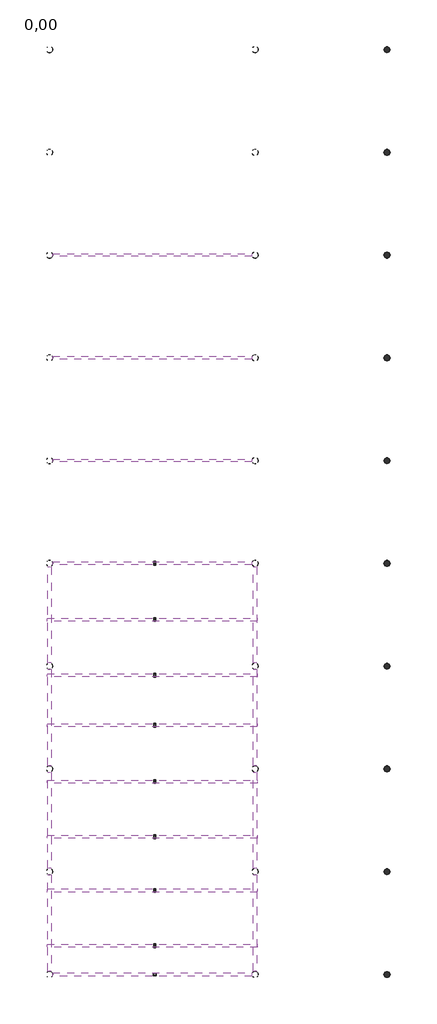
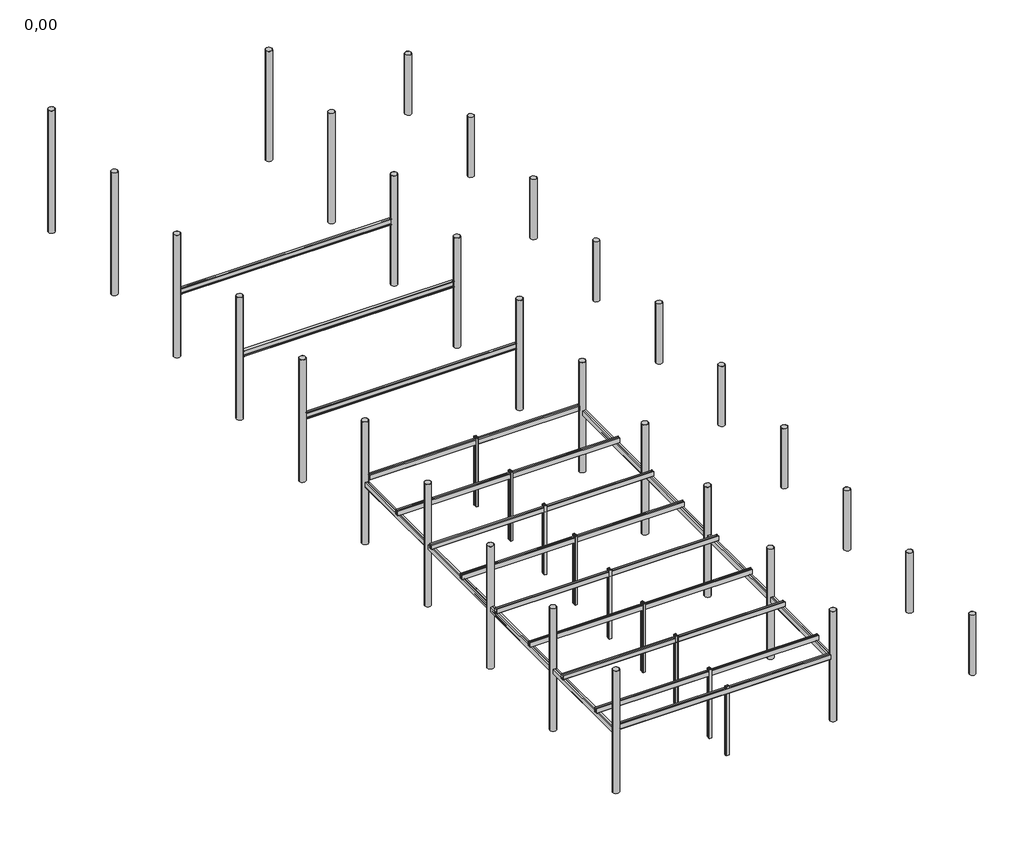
# One storey: 55 columns, 20 beams.
"""IFC4 building model written with IfcOpenShell, lengths in millimetres."""

from ifc_helpers import new_model, si_unit, origin, place, context, project, spatial, transform, mapped, element, save
from components import beam_2_c_260_021a14dd, beam_2c_270e_83d6d2ef, beam_2c_270e_b8db1d55, i330pe_6d48d478, c120_7a4876d0, c120_c8b7eb78, c180_2d3c2f65, r355_6x10_451059c9, r355_6x10_30b81005, r355_6x10_7112e704

model = new_model("IFC4")

# Units and contexts
model_context = context("Model", 3, world=origin())
ifc_project = project(units=[si_unit("LENGTHUNIT", "METRE", prefix="MILLI")], contexts=[model_context])

# Site, building, storey
site = spatial("IfcSite", under=ifc_project)
building = spatial("IfcBuilding", under=site)
storey = spatial("IfcBuildingStorey", under=building, Name="0,00", Elevation=0.0)

# Beams
placement = place(None, origin())
beam_2_c_260_shape = beam_2_c_260_021a14dd(model_context)
element("IfcBeam", 1, ObjectType="RPLN C - Ceowniki normalne_beamx2 : 2 C 260", at=placement, inside=storey, context=model_context, shape_type="MappedRepresentation", body=[
    mapped(beam_2_c_260_shape, transform((-2097.0111104, -35232.4816585, 3770.0), x_axis=(1.0, 0.0, 0.0), y_axis=(0.0, 1.0, 0.0), z_axis=(0.0, 0.0, 1.0))),
])
element("IfcBeam", 2, ObjectType="RPLN C - Ceowniki normalne_beamx2 : 2C 260", at=placement, inside=storey, context=model_context, shape_type="MappedRepresentation", body=[
    mapped(beam_2_c_260_shape, transform((-2097.0111104, -32012.4816585, 3770.0), x_axis=(1.0, 0.0, 0.0), y_axis=(0.0, 1.0, 0.0), z_axis=(0.0, 0.0, 1.0))),
])
element("IfcBeam", 3, ObjectType="RPLN C - Ceowniki normalne_beamx2 : 2C 260", at=placement, inside=storey, context=model_context, shape_type="MappedRepresentation", body=[
    mapped(beam_2_c_260_shape, transform((-2097.0111104, -28872.4816585, 3770.0), x_axis=(1.0, 0.0, 0.0), y_axis=(0.0, 1.0, 0.0), z_axis=(0.0, 0.0, 1.0))),
])
element("IfcBeam", 4, ObjectType="RPLN C - Ceowniki normalne_beamx2 : 2C 260", at=placement, inside=storey, context=model_context, shape_type="MappedRepresentation", body=[
    mapped(beam_2_c_260_shape, transform((-2097.0111104, -25652.4816585, 3770.0), x_axis=(1.0, 0.0, 0.0), y_axis=(0.0, 1.0, 0.0), z_axis=(0.0, 0.0, 1.0))),
])
element("IfcBeam", 5, ObjectType="RPLN C - Ceowniki normalne_beamx2 : 2C 260", at=placement, inside=storey, context=model_context, shape_type="MappedRepresentation", body=[
    mapped(beam_2_c_260_shape, transform((-2097.0111104, -22362.4816585, 3770.0), x_axis=(1.0, 0.0, 0.0), y_axis=(0.0, 1.0, 0.0), z_axis=(0.0, 0.0, 1.0))),
])
element("IfcBeam", 6, ObjectType="RPLN C - Ceowniki normalne_beamx2 : 2C 260", at=placement, inside=storey, context=model_context, shape_type="MappedRepresentation", body=[
    mapped(beam_2_c_260_shape, transform((-2097.0111104, -19442.4816585, 3770.0), x_axis=(1.0, 0.0, 0.0), y_axis=(0.0, 1.0, 0.0), z_axis=(0.0, 0.0, 1.0))),
])
element("IfcBeam", 7, ObjectType="RPLN C - Ceowniki normalne_beamx2 : 2C 260", at=placement, inside=storey, context=model_context, shape_type="MappedRepresentation", body=[
    mapped(beam_2_c_260_shape, transform((-2097.0111104, -16192.4816585, 3770.0), x_axis=(1.0, 0.0, 0.0), y_axis=(0.0, 1.0, 0.0), z_axis=(0.0, 0.0, 1.0))),
])
beam_2c_270e_shape = beam_2c_270e_83d6d2ef(model_context)
element("IfcBeam", 8, ObjectType="RPLN C - Ceowniki ekonomiczne_beamx2 : 2C 270E", at=placement, inside=storey, context=model_context, shape_type="MappedRepresentation", body=[
    mapped(beam_2c_270e_shape, transform((-8097.0111104, -33912.4816585, 3505.0), x_axis=(0.0, 1.0, 0.0), y_axis=(-1.0, 0.0, 0.0), z_axis=(0.0, 0.0, 1.0))),
])
element("IfcBeam", 9, ObjectType="RPLN C - Ceowniki ekonomiczne_beamx2 : 2C 270E", at=placement, inside=storey, context=model_context, shape_type="MappedRepresentation", body=[
    mapped(beam_2c_270e_shape, transform((-8097.0111104, -27912.4816585, 3505.0), x_axis=(0.0, 1.0, 0.0), y_axis=(-1.0, 0.0, 0.0), z_axis=(0.0, 0.0, 1.0))),
])
element("IfcBeam", 10, ObjectType="RPLN C - Ceowniki ekonomiczne_beamx2 : 2C 270E", at=placement, inside=storey, context=model_context, shape_type="MappedRepresentation", body=[
    mapped(beam_2c_270e_shape, transform((-8097.0111104, -21912.4816585, 3505.0), x_axis=(0.0, 1.0, 0.0), y_axis=(-1.0, 0.0, 0.0), z_axis=(0.0, 0.0, 1.0))),
])
element("IfcBeam", 11, ObjectType="RPLN C - Ceowniki ekonomiczne_beamx2 : 2C 270E", at=placement, inside=storey, context=model_context, shape_type="MappedRepresentation", body=[
    mapped(beam_2c_270e_shape, transform((-8097.0111104, -15912.4816585, 3505.0), x_axis=(0.0, 1.0, 0.0), y_axis=(-1.0, 0.0, 0.0), z_axis=(0.0, 0.0, 1.0))),
])
element("IfcBeam", 12, ObjectType="RPLN C - Ceowniki ekonomiczne_beamx2 : 2C 270E", at=placement, inside=storey, context=model_context, shape_type="MappedRepresentation", body=[
    mapped(beam_2c_270e_shape, transform((3902.9888896, -15912.4816585, 3505.0), x_axis=(0.0, -1.0, 0.0), y_axis=(1.0, 0.0, 0.0), z_axis=(0.0, 0.0, 1.0))),
])
element("IfcBeam", 13, ObjectType="RPLN C - Ceowniki ekonomiczne_beamx2 : 2C 270E", at=placement, inside=storey, context=model_context, shape_type="MappedRepresentation", body=[
    mapped(beam_2c_270e_shape, transform((3902.9888896, -21912.4816585, 3505.0), x_axis=(0.0, -1.0, 0.0), y_axis=(1.0, 0.0, 0.0), z_axis=(0.0, 0.0, 1.0))),
])
element("IfcBeam", 14, ObjectType="RPLN C - Ceowniki ekonomiczne_beamx2 : 2C 270E", at=placement, inside=storey, context=model_context, shape_type="MappedRepresentation", body=[
    mapped(beam_2c_270e_shape, transform((3902.9888896, -27912.4816585, 3505.0), x_axis=(0.0, -1.0, 0.0), y_axis=(1.0, 0.0, 0.0), z_axis=(0.0, 0.0, 1.0))),
])
element("IfcBeam", 15, ObjectType="RPLN C - Ceowniki ekonomiczne_beamx2 : 2C 270E", at=placement, inside=storey, context=model_context, shape_type="MappedRepresentation", body=[
    mapped(beam_2c_270e_shape, transform((3902.9888896, -33912.4816585, 3505.0), x_axis=(0.0, -1.0, 0.0), y_axis=(1.0, 0.0, 0.0), z_axis=(0.0, 0.0, 1.0))),
])
beam_2c_270e_2_shape = beam_2c_270e_b8db1d55(model_context)
element("IfcBeam", 16, ObjectType="RPLN C - Ceowniki ekonomiczne_beamx2 : 2C 270E", at=placement, inside=storey, context=model_context, shape_type="MappedRepresentation", body=[
    mapped(beam_2c_270e_2_shape, transform((-2097.0111104, -12912.4816585, 3765.0), x_axis=(1.0, 0.0, 0.0), y_axis=(0.0, 1.0, 0.0), z_axis=(0.0, 0.0, 1.0))),
])
element("IfcBeam", 17, ObjectType="RPLN C - Ceowniki ekonomiczne_beamx2 : 2C 270E", at=placement, inside=storey, context=model_context, shape_type="MappedRepresentation", body=[
    mapped(beam_2c_270e_2_shape, transform((-2097.0111104, -36912.4816585, 3765.0), x_axis=(-1.0, 0.0, 0.0), y_axis=(0.0, -1.0, 0.0), z_axis=(0.0, 0.0, 1.0))),
])
i330pe_shape = i330pe_6d48d478(model_context)
element("IfcBeam", 18, ObjectType="RPLN IPE - Dwuteowniki równoległościenne : I330PE", at=placement, inside=storey, context=model_context, shape_type="MappedRepresentation", body=[
    mapped(i330pe_shape, transform((-2097.0111104, -6912.4816585, 3735.0), x_axis=(1.0, 0.0, 0.0), y_axis=(0.0, 1.0, 0.0), z_axis=(0.0, 0.0, 1.0))),
])
element("IfcBeam", 19, ObjectType="RPLN IPE - Dwuteowniki równoległościenne : I330PE", at=placement, inside=storey, context=model_context, shape_type="MappedRepresentation", body=[
    mapped(i330pe_shape, transform((-2097.0111104, -912.4816585, 3735.0), x_axis=(1.0, 0.0, 0.0), y_axis=(0.0, 1.0, 0.0), z_axis=(0.0, 0.0, 1.0))),
])
element("IfcBeam", 20, ObjectType="RPLN IPE - Dwuteowniki równoległościenne : I330PE", at=placement, inside=storey, context=model_context, shape_type="MappedRepresentation", body=[
    mapped(i330pe_shape, transform((-2097.0111104, 5087.5183415, 3735.0), x_axis=(1.0, 0.0, 0.0), y_axis=(0.0, 1.0, 0.0), z_axis=(0.0, 0.0, 1.0))),
])

# Columns
c120_shape = c120_7a4876d0(model_context)
element("IfcColumn", 21, ObjectType="RPLN C - Ceowniki normalne_Column : C120", at=placement, inside=storey, context=model_context, shape_type="MappedRepresentation", body=[
    mapped(c120_shape, transform((-1957.0111104, -12818.4816585, 0.0), x_axis=(0.0, -1.0, 0.0), y_axis=(1.0, 0.0, 0.0), z_axis=(0.0, 0.0, 1.0))),
])
element("IfcColumn", 22, ObjectType="RPLN C - Ceowniki normalne_Column : C120", at=placement, inside=storey, context=model_context, shape_type="MappedRepresentation", body=[
    mapped(c120_shape, transform((-1957.0111104, -13006.4816585, 0.0), x_axis=(0.0, 1.0, 0.0), y_axis=(-1.0, 0.0, 0.0), z_axis=(0.0, 0.0, 1.0))),
])
element("IfcColumn", 23, ObjectType="RPLN C - Ceowniki normalne_Column : C120", at=placement, inside=storey, context=model_context, shape_type="MappedRepresentation", body=[
    mapped(c120_shape, transform((-1957.0111104, -16098.4816585, 0.0), x_axis=(0.0, -1.0, 0.0), y_axis=(1.0, 0.0, 0.0), z_axis=(0.0, 0.0, 1.0))),
])
element("IfcColumn", 24, ObjectType="RPLN C - Ceowniki normalne_Column : C120", at=placement, inside=storey, context=model_context, shape_type="MappedRepresentation", body=[
    mapped(c120_shape, transform((-1957.0111104, -16286.4816585, 0.0), x_axis=(0.0, 1.0, 0.0), y_axis=(-1.0, 0.0, 0.0), z_axis=(0.0, 0.0, 1.0))),
])
element("IfcColumn", 25, ObjectType="RPLN C - Ceowniki normalne_Column : C120", at=placement, inside=storey, context=model_context, shape_type="MappedRepresentation", body=[
    mapped(c120_shape, transform((-1957.0111104, -19348.4816585, 0.0), x_axis=(0.0, -1.0, 0.0), y_axis=(1.0, 0.0, 0.0), z_axis=(0.0, 0.0, 1.0))),
])
element("IfcColumn", 26, ObjectType="RPLN C - Ceowniki normalne_Column : C120", at=placement, inside=storey, context=model_context, shape_type="MappedRepresentation", body=[
    mapped(c120_shape, transform((-1957.0111104, -19536.4816585, 0.0), x_axis=(0.0, 1.0, 0.0), y_axis=(-1.0, 0.0, 0.0), z_axis=(0.0, 0.0, 1.0))),
])
element("IfcColumn", 27, ObjectType="RPLN C - Ceowniki normalne_Column : C120", at=placement, inside=storey, context=model_context, shape_type="MappedRepresentation", body=[
    mapped(c120_shape, transform((-1957.0111104, -22268.4816585, 0.0), x_axis=(0.0, -1.0, 0.0), y_axis=(1.0, 0.0, 0.0), z_axis=(0.0, 0.0, 1.0))),
])
element("IfcColumn", 28, ObjectType="RPLN C - Ceowniki normalne_Column : C120", at=placement, inside=storey, context=model_context, shape_type="MappedRepresentation", body=[
    mapped(c120_shape, transform((-1957.0111104, -22456.4816585, 0.0), x_axis=(0.0, 1.0, 0.0), y_axis=(-1.0, 0.0, 0.0), z_axis=(0.0, 0.0, 1.0))),
])
element("IfcColumn", 29, ObjectType="RPLN C - Ceowniki normalne_Column : C120", at=placement, inside=storey, context=model_context, shape_type="MappedRepresentation", body=[
    mapped(c120_shape, transform((-1957.0111104, -25558.4816585, 0.0), x_axis=(0.0, -1.0, 0.0), y_axis=(1.0, 0.0, 0.0), z_axis=(0.0, 0.0, 1.0))),
])
element("IfcColumn", 30, ObjectType="RPLN C - Ceowniki normalne_Column : C120", at=placement, inside=storey, context=model_context, shape_type="MappedRepresentation", body=[
    mapped(c120_shape, transform((-1957.0111104, -25746.4816585, 0.0), x_axis=(0.0, 1.0, 0.0), y_axis=(-1.0, 0.0, 0.0), z_axis=(0.0, 0.0, 1.0))),
])
element("IfcColumn", 31, ObjectType="RPLN C - Ceowniki normalne_Column : C120", at=placement, inside=storey, context=model_context, shape_type="MappedRepresentation", body=[
    mapped(c120_shape, transform((-1957.0111104, -28778.4816585, 0.0), x_axis=(0.0, -1.0, 0.0), y_axis=(1.0, 0.0, 0.0), z_axis=(0.0, 0.0, 1.0))),
])
element("IfcColumn", 32, ObjectType="RPLN C - Ceowniki normalne_Column : C120", at=placement, inside=storey, context=model_context, shape_type="MappedRepresentation", body=[
    mapped(c120_shape, transform((-1957.0111104, -28966.4816585, 0.0), x_axis=(0.0, 1.0, 0.0), y_axis=(-1.0, 0.0, 0.0), z_axis=(0.0, 0.0, 1.0))),
])
element("IfcColumn", 33, ObjectType="RPLN C - Ceowniki normalne_Column : C120", at=placement, inside=storey, context=model_context, shape_type="MappedRepresentation", body=[
    mapped(c120_shape, transform((-1957.0111104, -31918.4816585, 0.0), x_axis=(0.0, -1.0, 0.0), y_axis=(1.0, 0.0, 0.0), z_axis=(0.0, 0.0, 1.0))),
])
element("IfcColumn", 34, ObjectType="RPLN C - Ceowniki normalne_Column : C120", at=placement, inside=storey, context=model_context, shape_type="MappedRepresentation", body=[
    mapped(c120_shape, transform((-1957.0111104, -32106.4816585, 0.0), x_axis=(0.0, 1.0, 0.0), y_axis=(-1.0, 0.0, 0.0), z_axis=(0.0, 0.0, 1.0))),
])
element("IfcColumn", 35, ObjectType="RPLN C - Ceowniki normalne_Column : C120", at=placement, inside=storey, context=model_context, shape_type="MappedRepresentation", body=[
    mapped(c120_shape, transform((-1957.0111104, -35138.4816585, 0.0), x_axis=(0.0, -1.0, 0.0), y_axis=(1.0, 0.0, 0.0), z_axis=(0.0, 0.0, 1.0))),
])
element("IfcColumn", 36, ObjectType="RPLN C - Ceowniki normalne_Column : C120", at=placement, inside=storey, context=model_context, shape_type="MappedRepresentation", body=[
    mapped(c120_shape, transform((-1957.0111104, -35326.4816585, 0.0), x_axis=(0.0, 1.0, 0.0), y_axis=(-1.0, 0.0, 0.0), z_axis=(0.0, 0.0, 1.0))),
])
c120_2_shape = c120_c8b7eb78(model_context)
element("IfcColumn", 37, ObjectType="RPLN C - Ceowniki normalne_Column -x2 : C120", at=placement, inside=storey, context=model_context, shape_type="MappedRepresentation", body=[
    mapped(c120_2_shape, transform((-1957.0111104, -12912.4816585, 0.0), x_axis=(0.0, 1.0, 0.0), y_axis=(-1.0, 0.0, 0.0), z_axis=(0.0, 0.0, 1.0))),
])
element("IfcColumn", 38, ObjectType="RPLN C - Ceowniki normalne_Column -x2 : C120", at=placement, inside=storey, context=model_context, shape_type="MappedRepresentation", body=[
    mapped(c120_2_shape, transform((-1957.0111104, -16192.4816585, 0.0), x_axis=(0.0, -1.0, 0.0), y_axis=(1.0, 0.0, 0.0), z_axis=(0.0, 0.0, 1.0))),
])
element("IfcColumn", 39, ObjectType="RPLN C - Ceowniki normalne_Column -x2 : C120", at=placement, inside=storey, context=model_context, shape_type="MappedRepresentation", body=[
    mapped(c120_2_shape, transform((-1957.0111104, -19442.4816585, 0.0), x_axis=(0.0, -1.0, 0.0), y_axis=(1.0, 0.0, 0.0), z_axis=(0.0, 0.0, 1.0))),
])
element("IfcColumn", 40, ObjectType="RPLN C - Ceowniki normalne_Column -x2 : C120", at=placement, inside=storey, context=model_context, shape_type="MappedRepresentation", body=[
    mapped(c120_2_shape, transform((-1957.0111104, -22362.4816585, 0.0), x_axis=(0.0, -1.0, 0.0), y_axis=(1.0, 0.0, 0.0), z_axis=(0.0, 0.0, 1.0))),
])
element("IfcColumn", 41, ObjectType="RPLN C - Ceowniki normalne_Column -x2 : C120", at=placement, inside=storey, context=model_context, shape_type="MappedRepresentation", body=[
    mapped(c120_2_shape, transform((-1957.0111104, -25652.4816585, 0.0), x_axis=(0.0, -1.0, 0.0), y_axis=(1.0, 0.0, 0.0), z_axis=(0.0, 0.0, 1.0))),
])
element("IfcColumn", 42, ObjectType="RPLN C - Ceowniki normalne_Column -x2 : C120", at=placement, inside=storey, context=model_context, shape_type="MappedRepresentation", body=[
    mapped(c120_2_shape, transform((-1957.0111104, -28872.4816585, 0.0), x_axis=(0.0, -1.0, 0.0), y_axis=(1.0, 0.0, 0.0), z_axis=(0.0, 0.0, 1.0))),
])
element("IfcColumn", 43, ObjectType="RPLN C - Ceowniki normalne_Column -x2 : C120", at=placement, inside=storey, context=model_context, shape_type="MappedRepresentation", body=[
    mapped(c120_2_shape, transform((-1957.0111104, -32012.4816585, 0.0), x_axis=(0.0, -1.0, 0.0), y_axis=(1.0, 0.0, 0.0), z_axis=(0.0, 0.0, 1.0))),
])
element("IfcColumn", 44, ObjectType="RPLN C - Ceowniki normalne_Column -x2 : C120", at=placement, inside=storey, context=model_context, shape_type="MappedRepresentation", body=[
    mapped(c120_2_shape, transform((-1957.0111104, -35232.4816585, 0.0), x_axis=(0.0, -1.0, 0.0), y_axis=(1.0, 0.0, 0.0), z_axis=(0.0, 0.0, 1.0))),
])
c180_shape = c180_2d3c2f65(model_context)
element("IfcColumn", 45, ObjectType="RPLN C - Ceowniki normalne_Column -x2 : C180", at=placement, inside=storey, context=model_context, shape_type="MappedRepresentation", body=[
    mapped(c180_shape, transform((-1957.0111104, -36912.4816585, 0.0), x_axis=(0.0, 1.0, 0.0), y_axis=(-1.0, 0.0, 0.0), z_axis=(0.0, 0.0, 1.0))),
])
r355_6x10_shape = r355_6x10_451059c9(model_context)
element("IfcColumn", 46, ObjectType="RPLN RO - Rury okragle_Column : R355.6x10", at=placement, inside=storey, context=model_context, shape_type="MappedRepresentation", body=[
    mapped(r355_6x10_shape, transform((3902.9888896, -36912.4816585, 0.0), x_axis=(-1.0, 0.0, 0.0), y_axis=(0.0, -1.0, 0.0), z_axis=(0.0, 0.0, 1.0))),
])
element("IfcColumn", 47, ObjectType="RPLN RO - Rury okragle_Column : R355.6x10", at=placement, inside=storey, context=model_context, shape_type="MappedRepresentation", body=[
    mapped(r355_6x10_shape, transform((3902.9888896, -30912.4816585, 0.0), x_axis=(-1.0, 0.0, 0.0), y_axis=(0.0, -1.0, 0.0), z_axis=(0.0, 0.0, 1.0))),
])
element("IfcColumn", 48, ObjectType="RPLN RO - Rury okragle_Column : R355.6x10", at=placement, inside=storey, context=model_context, shape_type="MappedRepresentation", body=[
    mapped(r355_6x10_shape, transform((3902.9888896, -24912.4816585, 0.0), x_axis=(-1.0, 0.0, 0.0), y_axis=(0.0, -1.0, 0.0), z_axis=(0.0, 0.0, 1.0))),
])
element("IfcColumn", 49, ObjectType="RPLN RO - Rury okragle_Column : R355.6x10", at=placement, inside=storey, context=model_context, shape_type="MappedRepresentation", body=[
    mapped(r355_6x10_shape, transform((3902.9888896, -18912.4816585, 0.0), x_axis=(-1.0, 0.0, 0.0), y_axis=(0.0, -1.0, 0.0), z_axis=(0.0, 0.0, 1.0))),
])
element("IfcColumn", 50, ObjectType="RPLN RO - Rury okragle_Column : R355.6x10", at=placement, inside=storey, context=model_context, shape_type="MappedRepresentation", body=[
    mapped(r355_6x10_shape, transform((3902.9888896, -12912.4816585, 0.0), x_axis=(-1.0, 0.0, 0.0), y_axis=(0.0, -1.0, 0.0), z_axis=(0.0, 0.0, 1.0))),
])
element("IfcColumn", 51, ObjectType="RPLN RO - Rury okragle_Column : R355.6x10", at=placement, inside=storey, context=model_context, shape_type="MappedRepresentation", body=[
    mapped(r355_6x10_shape, transform((3902.9888896, -6912.4816585, 0.0), x_axis=(-1.0, 0.0, 0.0), y_axis=(0.0, -1.0, 0.0), z_axis=(0.0, 0.0, 1.0))),
])
element("IfcColumn", 52, ObjectType="RPLN RO - Rury okragle_Column : R355.6x10", at=placement, inside=storey, context=model_context, shape_type="MappedRepresentation", body=[
    mapped(r355_6x10_shape, transform((3902.9888896, -912.4816585, 0.0), x_axis=(-1.0, 0.0, 0.0), y_axis=(0.0, -1.0, 0.0), z_axis=(0.0, 0.0, 1.0))),
])
element("IfcColumn", 53, ObjectType="RPLN RO - Rury okragle_Column : R355.6x10", at=placement, inside=storey, context=model_context, shape_type="MappedRepresentation", body=[
    mapped(r355_6x10_shape, transform((3902.9888896, 5087.5183415, 0.0), x_axis=(1.0, 0.0, 0.0), y_axis=(0.0, 1.0, 0.0), z_axis=(0.0, 0.0, 1.0))),
])
element("IfcColumn", 54, ObjectType="RPLN RO - Rury okragle_Column : R355.6x10", at=placement, inside=storey, context=model_context, shape_type="MappedRepresentation", body=[
    mapped(r355_6x10_shape, transform((3902.9888896, 11087.5183415, 0.0), x_axis=(-1.0, 0.0, 0.0), y_axis=(0.0, -1.0, 0.0), z_axis=(0.0, 0.0, 1.0))),
])
element("IfcColumn", 55, ObjectType="RPLN RO - Rury okragle_Column : R355.6x10", at=placement, inside=storey, context=model_context, shape_type="MappedRepresentation", body=[
    mapped(r355_6x10_shape, transform((3902.9888896, 17087.5183415, 0.0), x_axis=(-1.0, 0.0, 0.0), y_axis=(0.0, -1.0, 0.0), z_axis=(0.0, 0.0, 1.0))),
])
r355_6x10_2_shape = r355_6x10_30b81005(model_context)
element("IfcColumn", 56, ObjectType="RPLN RO - Rury okragle_Column : R355.6x10", at=placement, inside=storey, context=model_context, shape_type="MappedRepresentation", body=[
    mapped(r355_6x10_2_shape, transform((-8097.0111104, -36912.4816585, 0.0), x_axis=(-1.0, 0.0, 0.0), y_axis=(0.0, -1.0, 0.0), z_axis=(0.0, 0.0, 1.0))),
])
element("IfcColumn", 57, ObjectType="RPLN RO - Rury okragle_Column : R355.6x10", at=placement, inside=storey, context=model_context, shape_type="MappedRepresentation", body=[
    mapped(r355_6x10_2_shape, transform((-8097.0111104, -30912.4816585, 0.0), x_axis=(-1.0, 0.0, 0.0), y_axis=(0.0, -1.0, 0.0), z_axis=(0.0, 0.0, 1.0))),
])
element("IfcColumn", 58, ObjectType="RPLN RO - Rury okragle_Column : R355.6x10", at=placement, inside=storey, context=model_context, shape_type="MappedRepresentation", body=[
    mapped(r355_6x10_2_shape, transform((-8097.0111104, -24912.4816585, 0.0), x_axis=(-1.0, 0.0, 0.0), y_axis=(0.0, -1.0, 0.0), z_axis=(0.0, 0.0, 1.0))),
])
element("IfcColumn", 59, ObjectType="RPLN RO - Rury okragle_Column : R355.6x10", at=placement, inside=storey, context=model_context, shape_type="MappedRepresentation", body=[
    mapped(r355_6x10_2_shape, transform((-8097.0111104, -18912.4816585, 0.0), x_axis=(-1.0, 0.0, 0.0), y_axis=(0.0, -1.0, 0.0), z_axis=(0.0, 0.0, 1.0))),
])
element("IfcColumn", 60, ObjectType="RPLN RO - Rury okragle_Column : R355.6x10", at=placement, inside=storey, context=model_context, shape_type="MappedRepresentation", body=[
    mapped(r355_6x10_2_shape, transform((-8097.0111104, -12912.4816585, 0.0), x_axis=(-1.0, 0.0, 0.0), y_axis=(0.0, -1.0, 0.0), z_axis=(0.0, 0.0, 1.0))),
])
element("IfcColumn", 61, ObjectType="RPLN RO - Rury okragle_Column : R355.6x10", at=placement, inside=storey, context=model_context, shape_type="MappedRepresentation", body=[
    mapped(r355_6x10_2_shape, transform((-8097.0111104, -6912.4816585, 0.0), x_axis=(-1.0, 0.0, 0.0), y_axis=(0.0, -1.0, 0.0), z_axis=(0.0, 0.0, 1.0))),
])
element("IfcColumn", 62, ObjectType="RPLN RO - Rury okragle_Column : R355.6x10", at=placement, inside=storey, context=model_context, shape_type="MappedRepresentation", body=[
    mapped(r355_6x10_2_shape, transform((-8097.0111104, -912.4816585, 0.0), x_axis=(-1.0, 0.0, 0.0), y_axis=(0.0, -1.0, 0.0), z_axis=(0.0, 0.0, 1.0))),
])
element("IfcColumn", 63, ObjectType="RPLN RO - Rury okragle_Column : R355.6x10", at=placement, inside=storey, context=model_context, shape_type="MappedRepresentation", body=[
    mapped(r355_6x10_2_shape, transform((-8097.0111104, 5087.5183415, 0.0), x_axis=(1.0, 0.0, 0.0), y_axis=(0.0, 1.0, 0.0), z_axis=(0.0, 0.0, 1.0))),
])
element("IfcColumn", 64, ObjectType="RPLN RO - Rury okragle_Column : R355.6x10", at=placement, inside=storey, context=model_context, shape_type="MappedRepresentation", body=[
    mapped(r355_6x10_2_shape, transform((-8097.0111104, 11087.5183415, 0.0), x_axis=(-1.0, 0.0, 0.0), y_axis=(0.0, -1.0, 0.0), z_axis=(0.0, 0.0, 1.0))),
])
element("IfcColumn", 65, ObjectType="RPLN RO - Rury okragle_Column : R355.6x10", at=placement, inside=storey, context=model_context, shape_type="MappedRepresentation", body=[
    mapped(r355_6x10_2_shape, transform((-8097.0111104, 17087.5183415, 0.0), x_axis=(-1.0, 0.0, 0.0), y_axis=(0.0, -1.0, 0.0), z_axis=(0.0, 0.0, 1.0))),
])
r355_6x10_3_shape = r355_6x10_7112e704(model_context)
element("IfcColumn", 66, ObjectType="RPLN RO - Rury okragle_Column : R355.6x10", at=placement, inside=storey, context=model_context, shape_type="MappedRepresentation", body=[
    mapped(r355_6x10_3_shape, transform((11602.963474, -36912.4816585, 0.0), x_axis=(-1.0, 0.0, 0.0), y_axis=(0.0, -1.0, 0.0), z_axis=(0.0, 0.0, 1.0))),
])
element("IfcColumn", 67, ObjectType="RPLN RO - Rury okragle_Column : R355.6x10", at=placement, inside=storey, context=model_context, shape_type="MappedRepresentation", body=[
    mapped(r355_6x10_3_shape, transform((11602.963474, -30912.4816585, 0.0), x_axis=(-1.0, 0.0, 0.0), y_axis=(0.0, -1.0, 0.0), z_axis=(0.0, 0.0, 1.0))),
])
element("IfcColumn", 68, ObjectType="RPLN RO - Rury okragle_Column : R355.6x10", at=placement, inside=storey, context=model_context, shape_type="MappedRepresentation", body=[
    mapped(r355_6x10_3_shape, transform((11602.963474, -24912.4816585, 0.0), x_axis=(-1.0, 0.0, 0.0), y_axis=(0.0, -1.0, 0.0), z_axis=(0.0, 0.0, 1.0))),
])
element("IfcColumn", 69, ObjectType="RPLN RO - Rury okragle_Column : R355.6x10", at=placement, inside=storey, context=model_context, shape_type="MappedRepresentation", body=[
    mapped(r355_6x10_3_shape, transform((11602.963474, -18912.4816585, 0.0), x_axis=(-1.0, 0.0, 0.0), y_axis=(0.0, -1.0, 0.0), z_axis=(0.0, 0.0, 1.0))),
])
element("IfcColumn", 70, ObjectType="RPLN RO - Rury okragle_Column : R355.6x10", at=placement, inside=storey, context=model_context, shape_type="MappedRepresentation", body=[
    mapped(r355_6x10_3_shape, transform((11602.963474, -12912.4816585, 0.0), x_axis=(-1.0, 0.0, 0.0), y_axis=(0.0, -1.0, 0.0), z_axis=(0.0, 0.0, 1.0))),
])
element("IfcColumn", 71, ObjectType="RPLN RO - Rury okragle_Column : R355.6x10", at=placement, inside=storey, context=model_context, shape_type="MappedRepresentation", body=[
    mapped(r355_6x10_3_shape, transform((11602.963474, -6912.4816585, 0.0), x_axis=(-1.0, 0.0, 0.0), y_axis=(0.0, -1.0, 0.0), z_axis=(0.0, 0.0, 1.0))),
])
element("IfcColumn", 72, ObjectType="RPLN RO - Rury okragle_Column : R355.6x10", at=placement, inside=storey, context=model_context, shape_type="MappedRepresentation", body=[
    mapped(r355_6x10_3_shape, transform((11602.963474, -912.4816585, 0.0), x_axis=(-1.0, 0.0, 0.0), y_axis=(0.0, -1.0, 0.0), z_axis=(0.0, 0.0, 1.0))),
])
element("IfcColumn", 73, ObjectType="RPLN RO - Rury okragle_Column : R355.6x10", at=placement, inside=storey, context=model_context, shape_type="MappedRepresentation", body=[
    mapped(r355_6x10_3_shape, transform((11602.963474, 5087.5183415, 0.0), x_axis=(1.0, 0.0, 0.0), y_axis=(0.0, 1.0, 0.0), z_axis=(0.0, 0.0, 1.0))),
])
element("IfcColumn", 74, ObjectType="RPLN RO - Rury okragle_Column : R355.6x10", at=placement, inside=storey, context=model_context, shape_type="MappedRepresentation", body=[
    mapped(r355_6x10_3_shape, transform((11602.963474, 11087.5183415, 0.0), x_axis=(-1.0, 0.0, 0.0), y_axis=(0.0, -1.0, 0.0), z_axis=(0.0, 0.0, 1.0))),
])
element("IfcColumn", 75, ObjectType="RPLN RO - Rury okragle_Column : R355.6x10", at=placement, inside=storey, context=model_context, shape_type="MappedRepresentation", body=[
    mapped(r355_6x10_3_shape, transform((11602.963474, 17087.5183415, 0.0), x_axis=(-1.0, 0.0, 0.0), y_axis=(0.0, -1.0, 0.0), z_axis=(0.0, 0.0, 1.0))),
])

save(model, "model.ifc")
